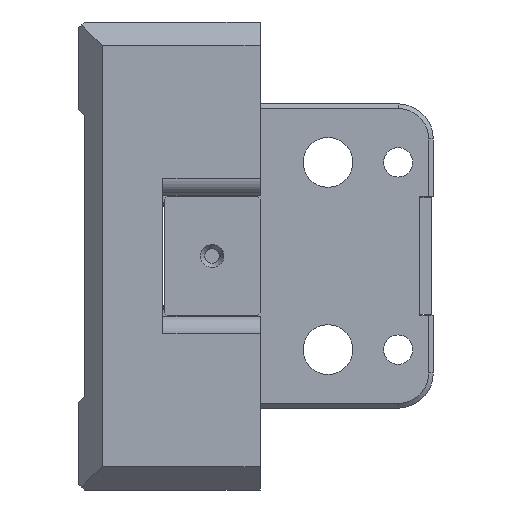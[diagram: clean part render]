
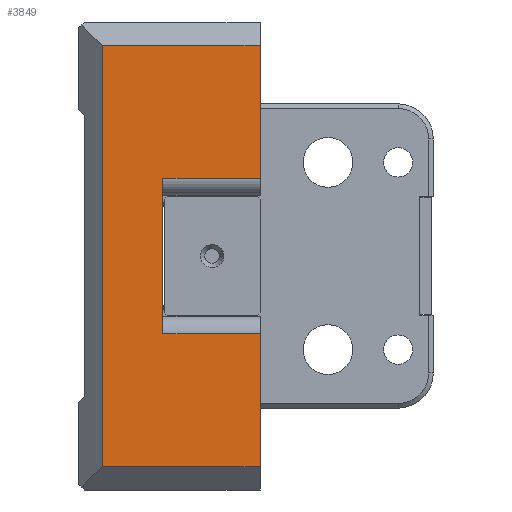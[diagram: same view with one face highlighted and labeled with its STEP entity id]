
A CAD part, left-side view. The second image highlights one B-rep face of the part: STEP entity #3849.
In plain terms, the highlighted planar face has unit normal (-1, 0, 0).
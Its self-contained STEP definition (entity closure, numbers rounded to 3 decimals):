
#48 = ORIENTED_EDGE ( 'NONE', *, *, #142, .F. ) ;
#142 = EDGE_CURVE ( 'NONE', #5184, #1763, #1908, .T. ) ;
#193 = EDGE_CURVE ( 'NONE', #5076, #5184, #4057, .T. ) ;
#195 = VERTEX_POINT ( 'NONE', #4060 ) ;
#196 = LINE ( 'NONE', #1105, #3145 ) ;
#205 = CARTESIAN_POINT ( 'NONE',  ( -200., -31., 36. ) ) ;
#228 = EDGE_CURVE ( 'NONE', #5076, #1725, #1665, .T. ) ;
#332 = ORIENTED_EDGE ( 'NONE', *, *, #3091, .T. ) ;
#341 = LINE ( 'NONE', #2919, #571 ) ;
#421 = VECTOR ( 'NONE', #2213, 1000. ) ;
#460 = ORIENTED_EDGE ( 'NONE', *, *, #2118, .T. ) ;
#536 = LINE ( 'NONE', #2630, #421 ) ;
#571 = VECTOR ( 'NONE', #3339, 1000. ) ;
#711 = VECTOR ( 'NONE', #4465, 1000. ) ;
#1000 = ORIENTED_EDGE ( 'NONE', *, *, #228, .T. ) ;
#1005 = ORIENTED_EDGE ( 'NONE', *, *, #2816, .T. ) ;
#1103 = FACE_OUTER_BOUND ( 'NONE', #2399, .T. ) ;
#1105 = CARTESIAN_POINT ( 'NONE',  ( -200., -31., -36. ) ) ;
#1147 = CARTESIAN_POINT ( 'NONE',  ( -200., -4., 36. ) ) ;
#1312 = LINE ( 'NONE', #4959, #3329 ) ;
#1340 = CARTESIAN_POINT ( 'NONE',  ( -200., -14.4, -13.3 ) ) ;
#1356 = CARTESIAN_POINT ( 'NONE',  ( -200., -14.4, 13.3 ) ) ;
#1506 = CARTESIAN_POINT ( 'NONE',  ( -200., -31., 13.3 ) ) ;
#1517 = DIRECTION ( 'NONE',  ( 0., -1., 0. ) ) ;
#1650 = CARTESIAN_POINT ( 'NONE',  ( -200., -14.4, -13.3 ) ) ;
#1656 = DIRECTION ( 'NONE',  ( 0., 0., 1. ) ) ;
#1665 = LINE ( 'NONE', #2341, #2604 ) ;
#1725 = VERTEX_POINT ( 'NONE', #1506 ) ;
#1763 = VERTEX_POINT ( 'NONE', #3930 ) ;
#1775 = EDGE_CURVE ( 'NONE', #1725, #3218, #341, .T. ) ;
#1863 = CARTESIAN_POINT ( 'NONE',  ( -200., -31., -40. ) ) ;
#1908 = LINE ( 'NONE', #4547, #3937 ) ;
#2001 = ORIENTED_EDGE ( 'NONE', *, *, #1775, .T. ) ;
#2118 = EDGE_CURVE ( 'NONE', #4484, #195, #196, .T. ) ;
#2213 = DIRECTION ( 'NONE',  ( 0., 0., -1. ) ) ;
#2218 = AXIS2_PLACEMENT_3D ( 'NONE', #1863, #5084, #2667 ) ;
#2341 = CARTESIAN_POINT ( 'NONE',  ( -200., -14.4, 13.3 ) ) ;
#2399 = EDGE_LOOP ( 'NONE', ( #332, #460, #1005, #48, #3259, #1000, #2001, #2438 ) ) ;
#2438 = ORIENTED_EDGE ( 'NONE', *, *, #4122, .T. ) ;
#2454 = CARTESIAN_POINT ( 'NONE',  ( -200., -31., -40. ) ) ;
#2604 = VECTOR ( 'NONE', #4750, 1000. ) ;
#2630 = CARTESIAN_POINT ( 'NONE',  ( -200., -4., -40. ) ) ;
#2667 = DIRECTION ( 'NONE',  ( 0., 0., 1. ) ) ;
#2816 = EDGE_CURVE ( 'NONE', #195, #1763, #2861, .T. ) ;
#2861 = LINE ( 'NONE', #2454, #3945 ) ;
#2919 = CARTESIAN_POINT ( 'NONE',  ( -200., -31., -40. ) ) ;
#2939 = DIRECTION ( 'NONE',  ( 0., 1., 0. ) ) ;
#3091 = EDGE_CURVE ( 'NONE', #4433, #4484, #536, .T. ) ;
#3145 = VECTOR ( 'NONE', #1517, 1000. ) ;
#3218 = VERTEX_POINT ( 'NONE', #205 ) ;
#3259 = ORIENTED_EDGE ( 'NONE', *, *, #193, .F. ) ;
#3329 = VECTOR ( 'NONE', #2939, 1000. ) ;
#3339 = DIRECTION ( 'NONE',  ( 0., 0., 1. ) ) ;
#3849 = ADVANCED_FACE ( 'NONE', ( #1103 ), #4675, .T. ) ;
#3930 = CARTESIAN_POINT ( 'NONE',  ( -200., -31., -13.3 ) ) ;
#3937 = VECTOR ( 'NONE', #4565, 1000. ) ;
#3945 = VECTOR ( 'NONE', #1656, 1000. ) ;
#4001 = CARTESIAN_POINT ( 'NONE',  ( -200., -4., -36. ) ) ;
#4057 = LINE ( 'NONE', #1650, #711 ) ;
#4060 = CARTESIAN_POINT ( 'NONE',  ( -200., -31., -36. ) ) ;
#4122 = EDGE_CURVE ( 'NONE', #3218, #4433, #1312, .T. ) ;
#4433 = VERTEX_POINT ( 'NONE', #1147 ) ;
#4465 = DIRECTION ( 'NONE',  ( 0., 0., -1. ) ) ;
#4484 = VERTEX_POINT ( 'NONE', #4001 ) ;
#4547 = CARTESIAN_POINT ( 'NONE',  ( -200., -14.4, -13.3 ) ) ;
#4565 = DIRECTION ( 'NONE',  ( 0., -1., 0. ) ) ;
#4675 = PLANE ( 'NONE',  #2218 ) ;
#4750 = DIRECTION ( 'NONE',  ( 0., -1., 0. ) ) ;
#4959 = CARTESIAN_POINT ( 'NONE',  ( -200., -31., 36. ) ) ;
#5076 = VERTEX_POINT ( 'NONE', #1356 ) ;
#5084 = DIRECTION ( 'NONE',  ( -1., 0., 0. ) ) ;
#5184 = VERTEX_POINT ( 'NONE', #1340 ) ;
